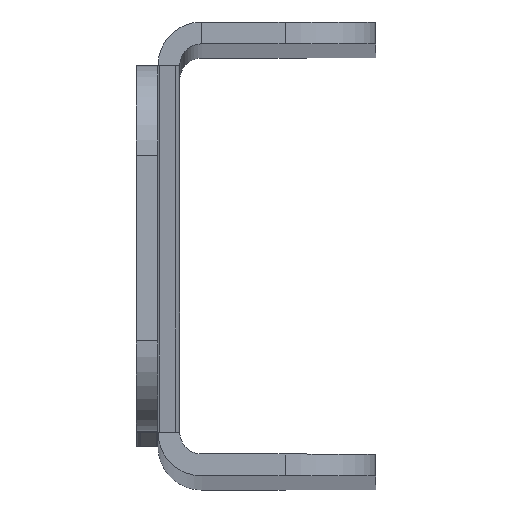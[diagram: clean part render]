
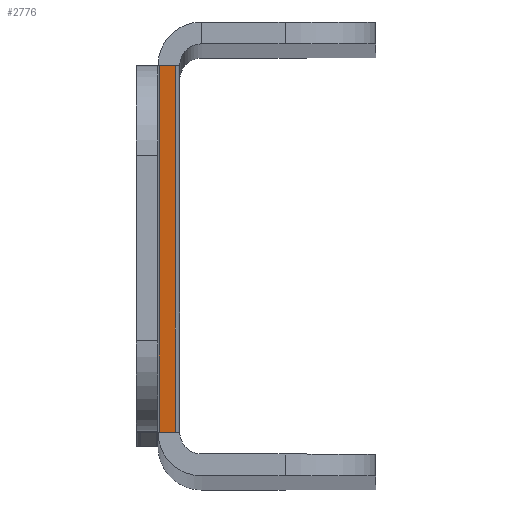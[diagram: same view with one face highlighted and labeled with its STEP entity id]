
A CAD part, top view. The second image highlights one B-rep face of the part: STEP entity #2776.
In plain terms, the highlighted planar face has unit normal (0.866, 0, 0.5).
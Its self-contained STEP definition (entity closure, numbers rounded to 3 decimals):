
#68 = DIRECTION ( 'NONE',  ( 0., 1., 0. ) ) ;
#233 = LINE ( 'NONE', #562, #3984 ) ;
#511 = LINE ( 'NONE', #780, #4142 ) ;
#561 = VERTEX_POINT ( 'NONE', #2520 ) ;
#562 = CARTESIAN_POINT ( 'NONE',  ( 0.08, 12.5, 226.939 ) ) ;
#567 = ORIENTED_EDGE ( 'NONE', *, *, #1253, .T. ) ;
#574 = EDGE_CURVE ( 'NONE', #561, #3417, #4610, .T. ) ;
#685 = ORIENTED_EDGE ( 'NONE', *, *, #1833, .T. ) ;
#780 = CARTESIAN_POINT ( 'NONE',  ( 0.959, 12.5, 225.418 ) ) ;
#810 = EDGE_CURVE ( 'NONE', #1762, #561, #233, .T. ) ;
#964 = DIRECTION ( 'NONE',  ( 0., 1., 0. ) ) ;
#1015 = EDGE_LOOP ( 'NONE', ( #3488, #567, #685, #1661 ) ) ;
#1253 = EDGE_CURVE ( 'NONE', #1762, #1853, #4134, .T. ) ;
#1627 = VECTOR ( 'NONE', #1698, 1000. ) ;
#1661 = ORIENTED_EDGE ( 'NONE', *, *, #574, .F. ) ;
#1698 = DIRECTION ( 'NONE',  ( 0.5, 0., -0.866 ) ) ;
#1705 = VECTOR ( 'NONE', #2453, 1000. ) ;
#1762 = VERTEX_POINT ( 'NONE', #1919 ) ;
#1793 = FACE_OUTER_BOUND ( 'NONE', #1015, .T. ) ;
#1833 = EDGE_CURVE ( 'NONE', #1853, #3417, #511, .T. ) ;
#1838 = CARTESIAN_POINT ( 'NONE',  ( 0.959, 10.1, 225.418 ) ) ;
#1853 = VERTEX_POINT ( 'NONE', #2935 ) ;
#1919 = CARTESIAN_POINT ( 'NONE',  ( 0.08, -10.1, 226.939 ) ) ;
#2008 = CARTESIAN_POINT ( 'NONE',  ( -7.765, -10.1, 240.528 ) ) ;
#2080 = DIRECTION ( 'NONE',  ( 0., -1., 0. ) ) ;
#2453 = DIRECTION ( 'NONE',  ( 0.5, 0., -0.866 ) ) ;
#2520 = CARTESIAN_POINT ( 'NONE',  ( 0.08, 10.1, 226.939 ) ) ;
#2527 = PLANE ( 'NONE',  #4408 ) ;
#2776 = ADVANCED_FACE ( 'NONE', ( #1793 ), #2527, .F. ) ;
#2824 = CARTESIAN_POINT ( 'NONE',  ( -7.765, 10.1, 240.528 ) ) ;
#2935 = CARTESIAN_POINT ( 'NONE',  ( 0.959, -10.1, 225.418 ) ) ;
#3183 = DIRECTION ( 'NONE',  ( -0.866, 0., -0.5 ) ) ;
#3417 = VERTEX_POINT ( 'NONE', #1838 ) ;
#3488 = ORIENTED_EDGE ( 'NONE', *, *, #810, .F. ) ;
#3924 = CARTESIAN_POINT ( 'NONE',  ( -7.765, 12.5, 240.528 ) ) ;
#3984 = VECTOR ( 'NONE', #964, 1000. ) ;
#4134 = LINE ( 'NONE', #2008, #1627 ) ;
#4142 = VECTOR ( 'NONE', #68, 1000. ) ;
#4408 = AXIS2_PLACEMENT_3D ( 'NONE', #3924, #3183, #2080 ) ;
#4610 = LINE ( 'NONE', #2824, #1705 ) ;
